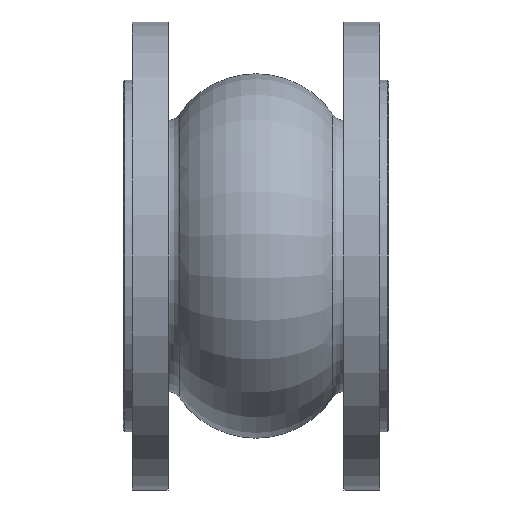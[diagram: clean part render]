
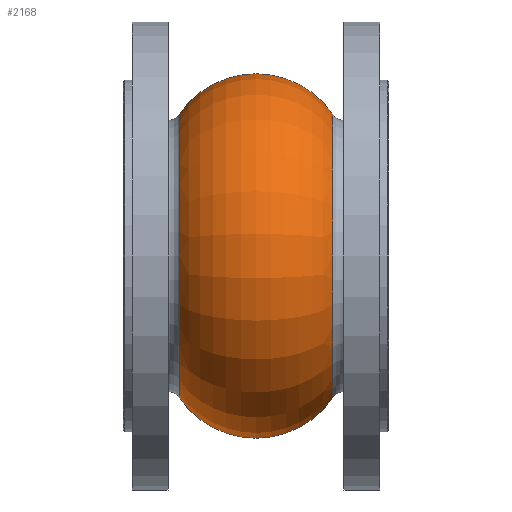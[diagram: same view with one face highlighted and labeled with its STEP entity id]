
A CAD part, front view. The second image highlights one B-rep face of the part: STEP entity #2168.
In plain terms, the highlighted toroidal (fillet/blend) face has major radius 47.674 mm and minor radius 49.652 mm.
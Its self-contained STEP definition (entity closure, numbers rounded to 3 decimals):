
#796 = CARTESIAN_POINT ( 'NONE',  ( -41.011, 0., 75.663 ) ) ;
#799 = DIRECTION ( 'NONE',  ( 0., 0., -1. ) ) ;
#800 = DIRECTION ( 'NONE',  ( 0., -1., 0. ) ) ;
#801 = CARTESIAN_POINT ( 'NONE',  ( 0., 0., 47.674 ) ) ;
#802 = AXIS2_PLACEMENT_3D ( 'NONE', #801, #800, #799 ) ;
#821 = CIRCLE ( 'NONE', #802, 49.652 ) ;
#853 = AXIS2_PLACEMENT_3D ( 'NONE', #920, #919, #918 ) ;
#854 = CARTESIAN_POINT ( 'NONE',  ( -41.011, 0., -75.663 ) ) ;
#858 = CIRCLE ( 'NONE', #853, 49.652 ) ;
#867 = CARTESIAN_POINT ( 'NONE',  ( 41.011, 0., -75.663 ) ) ;
#890 = AXIS2_PLACEMENT_3D ( 'NONE', #905, #904, #903 ) ;
#903 = DIRECTION ( 'NONE',  ( 0., 0., 1. ) ) ;
#904 = DIRECTION ( 'NONE',  ( -1., 0., 0. ) ) ;
#905 = CARTESIAN_POINT ( 'NONE',  ( 41.011, 0., 0. ) ) ;
#918 = DIRECTION ( 'NONE',  ( 0., 0., 1. ) ) ;
#919 = DIRECTION ( 'NONE',  ( 0., 1., 0. ) ) ;
#920 = CARTESIAN_POINT ( 'NONE',  ( 0., 0., -47.674 ) ) ;
#922 = CIRCLE ( 'NONE', #890, 75.663 ) ;
#924 = DIRECTION ( 'NONE',  ( 0., 0., 1. ) ) ;
#925 = DIRECTION ( 'NONE',  ( -1., 0., 0. ) ) ;
#926 = CARTESIAN_POINT ( 'NONE',  ( -41.011, 0., 0. ) ) ;
#938 = CARTESIAN_POINT ( 'NONE',  ( 41.011, 0., 75.663 ) ) ;
#941 = AXIS2_PLACEMENT_3D ( 'NONE', #926, #925, #924 ) ;
#942 = CIRCLE ( 'NONE', #941, 75.663 ) ;
#1193 = DIRECTION ( 'NONE',  ( 0., 0., 1. ) ) ;
#1194 = DIRECTION ( 'NONE',  ( -1., 0., 0. ) ) ;
#1195 = CARTESIAN_POINT ( 'NONE',  ( 0., 0., 0. ) ) ;
#1196 = AXIS2_PLACEMENT_3D ( 'NONE', #1195, #1194, #1193 ) ;
#1197 = TOROIDAL_SURFACE ( 'NONE', #1196, 47.674, 49.652 ) ;
#1226 = FACE_OUTER_BOUND ( 'NONE', #2152, .T. ) ;
#1947 = VERTEX_POINT ( 'NONE', #796 ) ;
#1948 = EDGE_CURVE ( 'NONE', #1988, #1947, #821, .T. ) ;
#1969 = EDGE_CURVE ( 'NONE', #1981, #1947, #942, .T. ) ;
#1978 = EDGE_CURVE ( 'NONE', #2007, #1981, #858, .T. ) ;
#1981 = VERTEX_POINT ( 'NONE', #854 ) ;
#1988 = VERTEX_POINT ( 'NONE', #938 ) ;
#1990 = EDGE_CURVE ( 'NONE', #2007, #1988, #922, .T. ) ;
#2007 = VERTEX_POINT ( 'NONE', #867 ) ;
#2142 = ORIENTED_EDGE ( 'NONE', *, *, #1969, .F. ) ;
#2152 = EDGE_LOOP ( 'NONE', ( #2167, #2170, #2166, #2142 ) ) ;
#2166 = ORIENTED_EDGE ( 'NONE', *, *, #1948, .T. ) ;
#2167 = ORIENTED_EDGE ( 'NONE', *, *, #1978, .F. ) ;
#2168 = ADVANCED_FACE ( 'NONE', ( #1226 ), #1197, .T. ) ;
#2170 = ORIENTED_EDGE ( 'NONE', *, *, #1990, .T. ) ;
